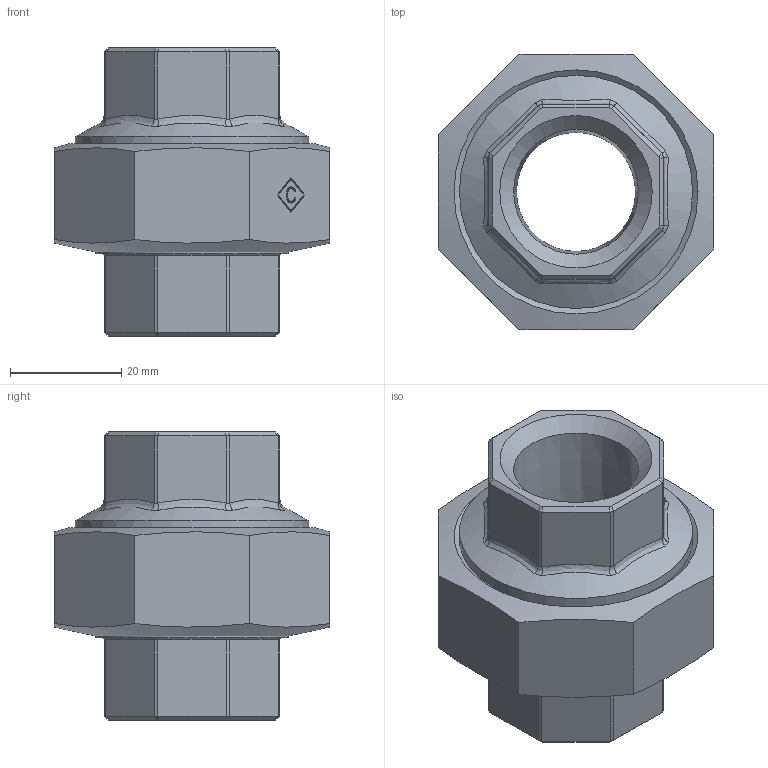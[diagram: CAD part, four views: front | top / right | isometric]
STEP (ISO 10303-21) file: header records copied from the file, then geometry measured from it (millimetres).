
FILE_DESCRIPTION((''),'2;1');
FILE_NAME('P:\Fastrack\53909_CRANE\Crane\Fig.289 Union\New 0.75 inch\289-0.75.stp','2009-09-17T16:54:34',('btaylor'),(''),'Autodesk Inventor 2008','Autodesk Inventor 2008','');
FILE_SCHEMA(('AUTOMOTIVE_DESIGN { 1 0 10303 214 1 1 1 1 }'));
Length unit declared in the file: millimetre
Products named in the file (1): 289-0.75
Bounding box: 49.53 x 49.53 x 51.79 mm (x, y, z)
Volume: 41985.2 mm3; surface area: 17125.9 mm2
Topology: 1 solids, 1 shells, 151 faces, 363 edges, 223 vertices
Faces by surface type: plane 61, bspline 35, cylinder 30, cone 25
Full cylindrical faces by diameter (mm): 26.9 x1, 34.67 x1, 35.052 x1, 37.85 x1, 41.91 x2
Entity records: 5491 total; most frequent: CARTESIAN_POINT 2360, ORIENTED_EDGE 682, DIRECTION 534, EDGE_CURVE 341, VERTEX_POINT 219, AXIS2_PLACEMENT_3D 204, EDGE_LOOP 180, FACE_OUTER_BOUND 151
